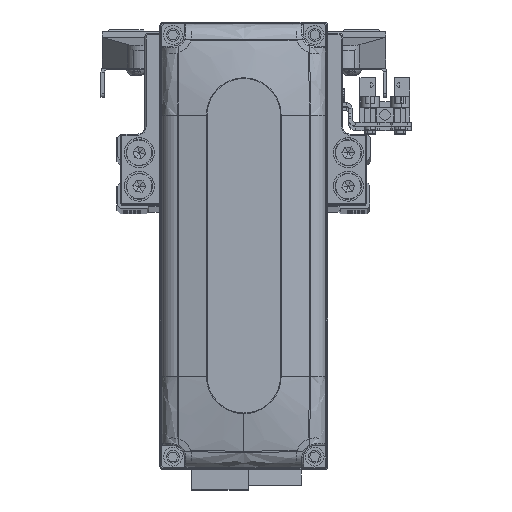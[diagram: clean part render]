
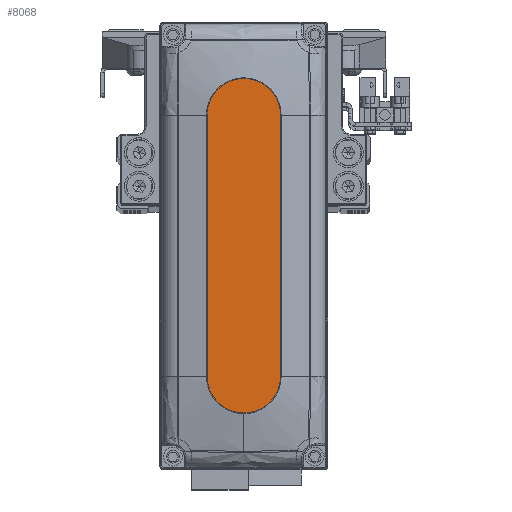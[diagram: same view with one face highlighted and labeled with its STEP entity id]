
A CAD part, top view. The second image highlights one B-rep face of the part: STEP entity #8068.
In plain terms, the highlighted planar face has unit normal (0, 0, 1).
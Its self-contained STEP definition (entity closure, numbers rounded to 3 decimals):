
#1535 = FACE_OUTER_BOUND ( 'NONE', #28343, .T. ) ;
#2762 = ORIENTED_EDGE ( 'NONE', *, *, #42738, .T. ) ;
#3700 = VERTEX_POINT ( 'NONE', #24848 ) ;
#3933 = CARTESIAN_POINT ( 'NONE',  ( 35., 0., 28. ) ) ;
#4364 = DIRECTION ( 'NONE',  ( 1., 0., 0. ) ) ;
#5103 = DIRECTION ( 'NONE',  ( 1., 0., 0. ) ) ;
#5589 = AXIS2_PLACEMENT_3D ( 'NONE', #30163, #44476, #12308 ) ;
#7638 = EDGE_CURVE ( 'NONE', #26389, #3700, #14433, .T. ) ;
#7966 = EDGE_CURVE ( 'NONE', #11782, #26389, #22187, .T. ) ;
#8068 = ADVANCED_FACE ( 'NONE', ( #1535 ), #15835, .T. ) ;
#8543 = DIRECTION ( 'NONE',  ( 1., 0., 0. ) ) ;
#9264 = CIRCLE ( 'NONE', #15255, 10. ) ;
#9649 = CARTESIAN_POINT ( 'NONE',  ( -35., 10., 28. ) ) ;
#11156 = LINE ( 'NONE', #25482, #15545 ) ;
#11782 = VERTEX_POINT ( 'NONE', #36371 ) ;
#12308 = DIRECTION ( 'NONE',  ( 1., 0., 0. ) ) ;
#14433 = CIRCLE ( 'NONE', #40655, 10. ) ;
#14879 = ORIENTED_EDGE ( 'NONE', *, *, #7638, .T. ) ;
#15255 = AXIS2_PLACEMENT_3D ( 'NONE', #26392, #40698, #8543 ) ;
#15513 = AXIS2_PLACEMENT_3D ( 'NONE', #3933, #18226, #32577 ) ;
#15545 = VECTOR ( 'NONE', #39784, 1000. ) ;
#15835 = PLANE ( 'NONE',  #5589 ) ;
#18226 = DIRECTION ( 'NONE',  ( 0., 0., 1. ) ) ;
#20686 = ORIENTED_EDGE ( 'NONE', *, *, #27438, .T. ) ;
#22187 = LINE ( 'NONE', #36528, #30319 ) ;
#22882 = VERTEX_POINT ( 'NONE', #42864 ) ;
#22942 = CARTESIAN_POINT ( 'NONE',  ( 35., 0., 28. ) ) ;
#24848 = CARTESIAN_POINT ( 'NONE',  ( 45., 0., 28. ) ) ;
#25482 = CARTESIAN_POINT ( 'NONE',  ( -35., 10., 28. ) ) ;
#26389 = VERTEX_POINT ( 'NONE', #28246 ) ;
#26392 = CARTESIAN_POINT ( 'NONE',  ( -35., 0., 28. ) ) ;
#27438 = EDGE_CURVE ( 'NONE', #38915, #11782, #9264, .T. ) ;
#28246 = CARTESIAN_POINT ( 'NONE',  ( 35., -10., 28. ) ) ;
#28343 = EDGE_LOOP ( 'NONE', ( #2762, #20686, #44222, #14879, #37723 ) ) ;
#29784 = CIRCLE ( 'NONE', #15513, 10. ) ;
#30163 = CARTESIAN_POINT ( 'NONE',  ( 0., 0., 28. ) ) ;
#30319 = VECTOR ( 'NONE', #4364, 1000. ) ;
#32577 = DIRECTION ( 'NONE',  ( 1., 0., 0. ) ) ;
#34365 = EDGE_CURVE ( 'NONE', #3700, #22882, #29784, .T. ) ;
#36371 = CARTESIAN_POINT ( 'NONE',  ( -35., -10., 28. ) ) ;
#36528 = CARTESIAN_POINT ( 'NONE',  ( -35., -10., 28. ) ) ;
#37262 = DIRECTION ( 'NONE',  ( 0., 0., 1. ) ) ;
#37723 = ORIENTED_EDGE ( 'NONE', *, *, #34365, .T. ) ;
#38915 = VERTEX_POINT ( 'NONE', #9649 ) ;
#39784 = DIRECTION ( 'NONE',  ( -1., 0., 0. ) ) ;
#40655 = AXIS2_PLACEMENT_3D ( 'NONE', #22942, #37262, #5103 ) ;
#40698 = DIRECTION ( 'NONE',  ( 0., 0., 1. ) ) ;
#42738 = EDGE_CURVE ( 'NONE', #22882, #38915, #11156, .T. ) ;
#42864 = CARTESIAN_POINT ( 'NONE',  ( 35., 10., 28. ) ) ;
#44222 = ORIENTED_EDGE ( 'NONE', *, *, #7966, .T. ) ;
#44476 = DIRECTION ( 'NONE',  ( 0., 0., 1. ) ) ;
